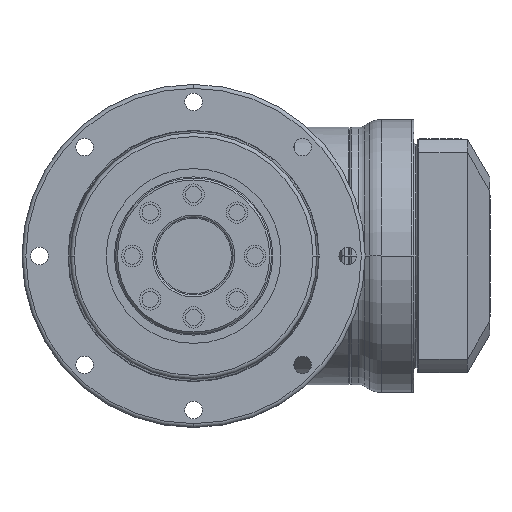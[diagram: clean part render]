
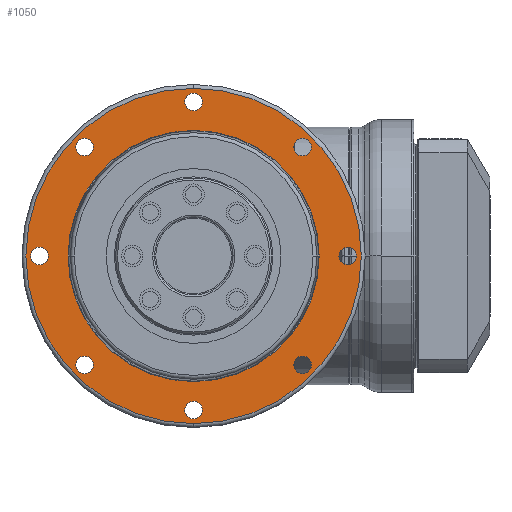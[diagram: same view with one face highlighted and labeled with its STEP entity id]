
A CAD part, left-side view. The second image highlights one B-rep face of the part: STEP entity #1050.
In plain terms, the highlighted planar face has unit normal (-1, 0, 0).
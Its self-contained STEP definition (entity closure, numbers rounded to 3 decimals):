
#193=CARTESIAN_POINT('',(15.5,39.5,0.));
#194=DIRECTION('',(-1.,0.,0.));
#195=DIRECTION('',(0.,0.,1.));
#196=AXIS2_PLACEMENT_3D('',#193,#194,#195);
#198=CARTESIAN_POINT('',(15.5,39.5,0.));
#199=DIRECTION('',(-1.,0.,0.));
#200=DIRECTION('',(0.,0.,-1.));
#201=AXIS2_PLACEMENT_3D('',#198,#199,#200);
#203=CARTESIAN_POINT('',(15.5,27.931,27.931));
#204=DIRECTION('',(-1.,0.,0.));
#205=DIRECTION('',(0.,-0.707,0.707));
#206=AXIS2_PLACEMENT_3D('',#203,#204,#205);
#208=CARTESIAN_POINT('',(15.5,27.931,27.931));
#209=DIRECTION('',(-1.,0.,0.));
#210=DIRECTION('',(0.,0.707,-0.707));
#211=AXIS2_PLACEMENT_3D('',#208,#209,#210);
#213=CARTESIAN_POINT('',(15.5,0.,39.5));
#214=DIRECTION('',(-1.,0.,0.));
#215=DIRECTION('',(0.,-1.,0.));
#216=AXIS2_PLACEMENT_3D('',#213,#214,#215);
#218=CARTESIAN_POINT('',(15.5,0.,39.5));
#219=DIRECTION('',(-1.,0.,0.));
#220=DIRECTION('',(0.,1.,0.));
#221=AXIS2_PLACEMENT_3D('',#218,#219,#220);
#223=CARTESIAN_POINT('',(15.5,-27.931,27.931));
#224=DIRECTION('',(-1.,0.,0.));
#225=DIRECTION('',(0.,-0.707,-0.707));
#226=AXIS2_PLACEMENT_3D('',#223,#224,#225);
#228=CARTESIAN_POINT('',(15.5,-27.931,27.931));
#229=DIRECTION('',(-1.,0.,0.));
#230=DIRECTION('',(0.,0.707,0.707));
#231=AXIS2_PLACEMENT_3D('',#228,#229,#230);
#233=CARTESIAN_POINT('',(15.5,-39.5,0.));
#234=DIRECTION('',(-1.,0.,0.));
#235=DIRECTION('',(0.,0.,-1.));
#236=AXIS2_PLACEMENT_3D('',#233,#234,#235);
#238=CARTESIAN_POINT('',(15.5,-39.5,0.));
#239=DIRECTION('',(-1.,0.,0.));
#240=DIRECTION('',(0.,0.,1.));
#241=AXIS2_PLACEMENT_3D('',#238,#239,#240);
#243=CARTESIAN_POINT('',(15.5,-27.931,-27.931));
#244=DIRECTION('',(-1.,0.,0.));
#245=DIRECTION('',(0.,0.707,-0.707));
#246=AXIS2_PLACEMENT_3D('',#243,#244,#245);
#248=CARTESIAN_POINT('',(15.5,-27.931,-27.931));
#249=DIRECTION('',(-1.,0.,0.));
#250=DIRECTION('',(0.,-0.707,0.707));
#251=AXIS2_PLACEMENT_3D('',#248,#249,#250);
#253=CARTESIAN_POINT('',(15.5,0.,-39.5));
#254=DIRECTION('',(-1.,0.,0.));
#255=DIRECTION('',(0.,1.,0.));
#256=AXIS2_PLACEMENT_3D('',#253,#254,#255);
#258=CARTESIAN_POINT('',(15.5,0.,-39.5));
#259=DIRECTION('',(-1.,0.,0.));
#260=DIRECTION('',(0.,-1.,0.));
#261=AXIS2_PLACEMENT_3D('',#258,#259,#260);
#263=CARTESIAN_POINT('',(15.5,27.931,-27.931));
#264=DIRECTION('',(-1.,0.,0.));
#265=DIRECTION('',(0.,0.707,0.707));
#266=AXIS2_PLACEMENT_3D('',#263,#264,#265);
#268=CARTESIAN_POINT('',(15.5,27.931,-27.931));
#269=DIRECTION('',(-1.,0.,0.));
#270=DIRECTION('',(0.,-0.707,-0.707));
#271=AXIS2_PLACEMENT_3D('',#268,#269,#270);
#273=CARTESIAN_POINT('',(15.5,0.,0.));
#274=DIRECTION('',(-1.,0.,0.));
#275=DIRECTION('',(0.,1.,0.));
#276=AXIS2_PLACEMENT_3D('',#273,#274,#275);
#278=CARTESIAN_POINT('',(15.5,0.,0.));
#279=DIRECTION('',(-1.,0.,0.));
#280=DIRECTION('',(0.,-1.,0.));
#281=AXIS2_PLACEMENT_3D('',#278,#279,#280);
#283=CARTESIAN_POINT('',(15.5,0.,0.));
#284=DIRECTION('',(-1.,0.,0.));
#285=DIRECTION('',(0.,0.,-1.));
#286=AXIS2_PLACEMENT_3D('',#283,#284,#285);
#288=CARTESIAN_POINT('',(15.5,0.,0.));
#289=DIRECTION('',(-1.,0.,0.));
#290=DIRECTION('',(0.,0.,1.));
#291=AXIS2_PLACEMENT_3D('',#288,#289,#290);
#629=CARTESIAN_POINT('',(15.5,39.5,2.25));
#630=CARTESIAN_POINT('',(15.5,39.5,-2.25));
#631=VERTEX_POINT('',#629);
#632=VERTEX_POINT('',#630);
#637=CARTESIAN_POINT('',(15.5,26.34,29.522));
#638=CARTESIAN_POINT('',(15.5,29.522,26.34));
#639=VERTEX_POINT('',#637);
#640=VERTEX_POINT('',#638);
#645=CARTESIAN_POINT('',(15.5,-2.25,39.5));
#646=CARTESIAN_POINT('',(15.5,2.25,39.5));
#647=VERTEX_POINT('',#645);
#648=VERTEX_POINT('',#646);
#653=CARTESIAN_POINT('',(15.5,-29.522,26.34));
#654=CARTESIAN_POINT('',(15.5,-26.34,29.522));
#655=VERTEX_POINT('',#653);
#656=VERTEX_POINT('',#654);
#661=CARTESIAN_POINT('',(15.5,-39.5,-2.25));
#662=CARTESIAN_POINT('',(15.5,-39.5,2.25));
#663=VERTEX_POINT('',#661);
#664=VERTEX_POINT('',#662);
#669=CARTESIAN_POINT('',(15.5,-26.34,-29.522));
#670=CARTESIAN_POINT('',(15.5,-29.522,-26.34));
#671=VERTEX_POINT('',#669);
#672=VERTEX_POINT('',#670);
#677=CARTESIAN_POINT('',(15.5,2.25,-39.5));
#678=CARTESIAN_POINT('',(15.5,-2.25,-39.5));
#679=VERTEX_POINT('',#677);
#680=VERTEX_POINT('',#678);
#685=CARTESIAN_POINT('',(15.5,29.522,-26.34));
#686=CARTESIAN_POINT('',(15.5,26.34,-29.522));
#687=VERTEX_POINT('',#685);
#688=VERTEX_POINT('',#686);
#709=CARTESIAN_POINT('',(15.5,32.2,0.));
#710=CARTESIAN_POINT('',(15.5,-32.2,0.));
#711=VERTEX_POINT('',#709);
#712=VERTEX_POINT('',#710);
#769=CARTESIAN_POINT('',(15.5,0.,-43.));
#770=CARTESIAN_POINT('',(15.5,0.,43.));
#771=VERTEX_POINT('',#769);
#772=VERTEX_POINT('',#770);
#986=CARTESIAN_POINT('',(15.5,0.,0.));
#987=DIRECTION('',(-1.,0.,0.));
#988=DIRECTION('',(0.,0.,1.));
#989=AXIS2_PLACEMENT_3D('',#986,#987,#988);
#990=PLANE('',#989);
#992=ORIENTED_EDGE('',*,*,#991,.F.);
#994=ORIENTED_EDGE('',*,*,#993,.F.);
#995=EDGE_LOOP('',(#992,#994));
#996=FACE_OUTER_BOUND('',#995,.F.);
#997=ORIENTED_EDGE('',*,*,#976,.T.);
#999=ORIENTED_EDGE('',*,*,#998,.T.);
#1000=EDGE_LOOP('',(#997,#999));
#1001=FACE_BOUND('',#1000,.F.);
#1003=ORIENTED_EDGE('',*,*,#1002,.T.);
#1005=ORIENTED_EDGE('',*,*,#1004,.T.);
#1006=EDGE_LOOP('',(#1003,#1005));
#1007=FACE_BOUND('',#1006,.F.);
#1009=ORIENTED_EDGE('',*,*,#1008,.T.);
#1011=ORIENTED_EDGE('',*,*,#1010,.T.);
#1012=EDGE_LOOP('',(#1009,#1011));
#1013=FACE_BOUND('',#1012,.F.);
#1015=ORIENTED_EDGE('',*,*,#1014,.T.);
#1017=ORIENTED_EDGE('',*,*,#1016,.T.);
#1018=EDGE_LOOP('',(#1015,#1017));
#1019=FACE_BOUND('',#1018,.F.);
#1021=ORIENTED_EDGE('',*,*,#1020,.T.);
#1023=ORIENTED_EDGE('',*,*,#1022,.T.);
#1024=EDGE_LOOP('',(#1021,#1023));
#1025=FACE_BOUND('',#1024,.F.);
#1027=ORIENTED_EDGE('',*,*,#1026,.T.);
#1029=ORIENTED_EDGE('',*,*,#1028,.T.);
#1030=EDGE_LOOP('',(#1027,#1029));
#1031=FACE_BOUND('',#1030,.F.);
#1033=ORIENTED_EDGE('',*,*,#1032,.T.);
#1035=ORIENTED_EDGE('',*,*,#1034,.T.);
#1036=EDGE_LOOP('',(#1033,#1035));
#1037=FACE_BOUND('',#1036,.F.);
#1039=ORIENTED_EDGE('',*,*,#1038,.T.);
#1041=ORIENTED_EDGE('',*,*,#1040,.T.);
#1042=EDGE_LOOP('',(#1039,#1041));
#1043=FACE_BOUND('',#1042,.F.);
#1045=ORIENTED_EDGE('',*,*,#1044,.T.);
#1047=ORIENTED_EDGE('',*,*,#1046,.T.);
#1048=EDGE_LOOP('',(#1045,#1047));
#1049=FACE_BOUND('',#1048,.F.);
#1050=ADVANCED_FACE('',(#996,#1001,#1007,#1013,#1019,#1025,#1031,#1037,#1043,
#1049),#990,.T.);
#197=CIRCLE('',#196,2.25);
#202=CIRCLE('',#201,2.25);
#207=CIRCLE('',#206,2.25);
#212=CIRCLE('',#211,2.25);
#217=CIRCLE('',#216,2.25);
#222=CIRCLE('',#221,2.25);
#227=CIRCLE('',#226,2.25);
#232=CIRCLE('',#231,2.25);
#237=CIRCLE('',#236,2.25);
#242=CIRCLE('',#241,2.25);
#247=CIRCLE('',#246,2.25);
#252=CIRCLE('',#251,2.25);
#257=CIRCLE('',#256,2.25);
#262=CIRCLE('',#261,2.25);
#267=CIRCLE('',#266,2.25);
#272=CIRCLE('',#271,2.25);
#277=CIRCLE('',#276,32.2);
#282=CIRCLE('',#281,32.2);
#287=CIRCLE('',#286,43.);
#292=CIRCLE('',#291,43.);
#976=EDGE_CURVE('',#631,#632,#197,.T.);
#991=EDGE_CURVE('',#771,#772,#287,.T.);
#993=EDGE_CURVE('',#772,#771,#292,.T.);
#998=EDGE_CURVE('',#632,#631,#202,.T.);
#1002=EDGE_CURVE('',#639,#640,#207,.T.);
#1004=EDGE_CURVE('',#640,#639,#212,.T.);
#1008=EDGE_CURVE('',#647,#648,#217,.T.);
#1010=EDGE_CURVE('',#648,#647,#222,.T.);
#1014=EDGE_CURVE('',#655,#656,#227,.T.);
#1016=EDGE_CURVE('',#656,#655,#232,.T.);
#1020=EDGE_CURVE('',#663,#664,#237,.T.);
#1022=EDGE_CURVE('',#664,#663,#242,.T.);
#1026=EDGE_CURVE('',#671,#672,#247,.T.);
#1028=EDGE_CURVE('',#672,#671,#252,.T.);
#1032=EDGE_CURVE('',#679,#680,#257,.T.);
#1034=EDGE_CURVE('',#680,#679,#262,.T.);
#1038=EDGE_CURVE('',#687,#688,#267,.T.);
#1040=EDGE_CURVE('',#688,#687,#272,.T.);
#1044=EDGE_CURVE('',#711,#712,#277,.T.);
#1046=EDGE_CURVE('',#712,#711,#282,.T.);
